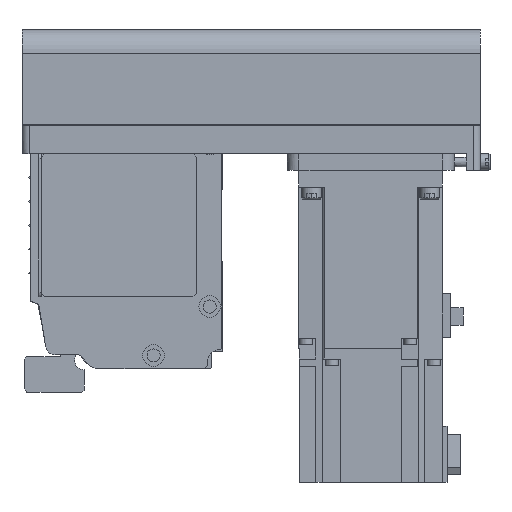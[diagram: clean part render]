
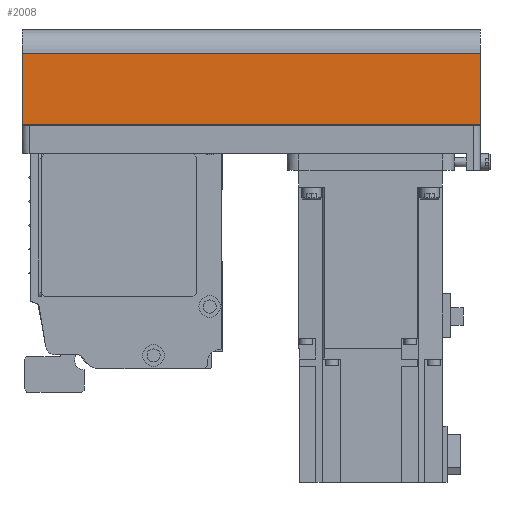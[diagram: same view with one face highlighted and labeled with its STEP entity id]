
A CAD part, left-side view. The second image highlights one B-rep face of the part: STEP entity #2008.
In plain terms, the highlighted planar face has unit normal (-1, 0, 0) as drawn and (0, -1, 0) by its records, which use the part's own axes.
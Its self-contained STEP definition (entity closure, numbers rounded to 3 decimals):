
#2008 = ADVANCED_FACE( '', ( #4220 ), #4221, .T. );
#4220 = FACE_OUTER_BOUND( '', #6588, .T. );
#4221 = PLANE( '', #6589 );
#6588 = EDGE_LOOP( '', ( #12127, #12128, #12129, #12130 ) );
#6589 = AXIS2_PLACEMENT_3D( '', #12131, #12132, #12133 );
#12127 = ORIENTED_EDGE( '', *, *, #14389, .F. );
#12128 = ORIENTED_EDGE( '', *, *, #13568, .F. );
#12129 = ORIENTED_EDGE( '', *, *, #15702, .T. );
#12130 = ORIENTED_EDGE( '', *, *, #15703, .T. );
#12131 = CARTESIAN_POINT( '', ( -192., -40., -12.1 ) );
#12132 = DIRECTION( '', ( 0., -1., 0. ) );
#12133 = DIRECTION( '', ( 0., 0., -1. ) );
#13568 = EDGE_CURVE( '', #16118, #16120, #16121, .T. );
#14389 = EDGE_CURVE( '', #16120, #17503, #17504, .T. );
#15702 = EDGE_CURVE( '', #16118, #19335, #19336, .T. );
#15703 = EDGE_CURVE( '', #19335, #17503, #19337, .T. );
#16118 = VERTEX_POINT( '', #19822 );
#16120 = VERTEX_POINT( '', #19825 );
#16121 = LINE( '', #19826, #19827 );
#17503 = VERTEX_POINT( '', #21685 );
#17504 = LINE( '', #21686, #21687 );
#19335 = VERTEX_POINT( '', #24162 );
#19336 = LINE( '', #24163, #24164 );
#19337 = LINE( '', #24165, #24166 );
#19822 = CARTESIAN_POINT( '', ( -192., -40., -12.1 ) );
#19825 = CARTESIAN_POINT( '', ( 0., -40., -12.1 ) );
#19826 = CARTESIAN_POINT( '', ( -192., -40., -12.1 ) );
#19827 = VECTOR( '', #24610, 1000. );
#21685 = CARTESIAN_POINT( '', ( 0., -40., -42. ) );
#21686 = CARTESIAN_POINT( '', ( 0., -40., -12.1 ) );
#21687 = VECTOR( '', #25606, 1000. );
#24162 = CARTESIAN_POINT( '', ( -192., -40., -42. ) );
#24163 = CARTESIAN_POINT( '', ( -192., -40., -12.1 ) );
#24164 = VECTOR( '', #27121, 1000. );
#24165 = CARTESIAN_POINT( '', ( -192., -40., -42. ) );
#24166 = VECTOR( '', #27122, 1000. );
#24610 = DIRECTION( '', ( 1., 0., 0. ) );
#25606 = DIRECTION( '', ( 0., 0., -1. ) );
#27121 = DIRECTION( '', ( 0., 0., -1. ) );
#27122 = DIRECTION( '', ( 1., 0., 0. ) );
